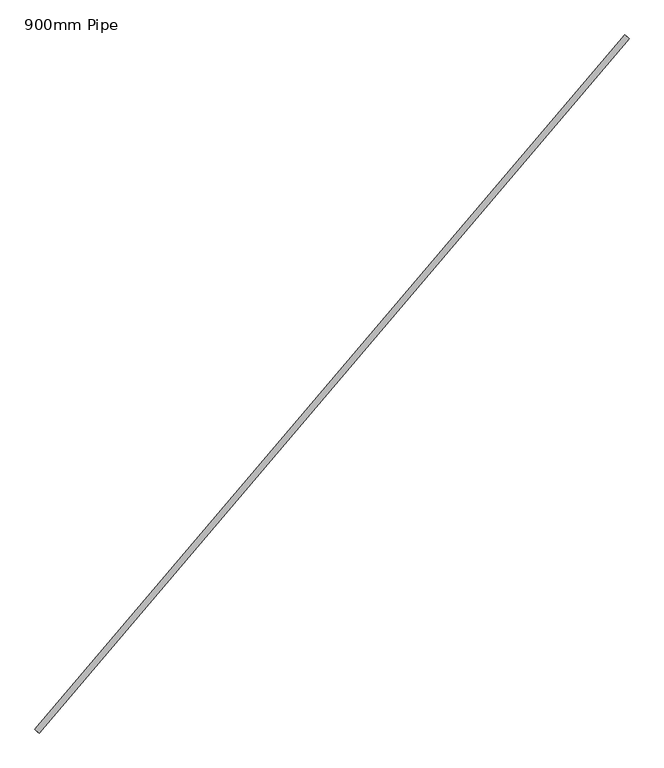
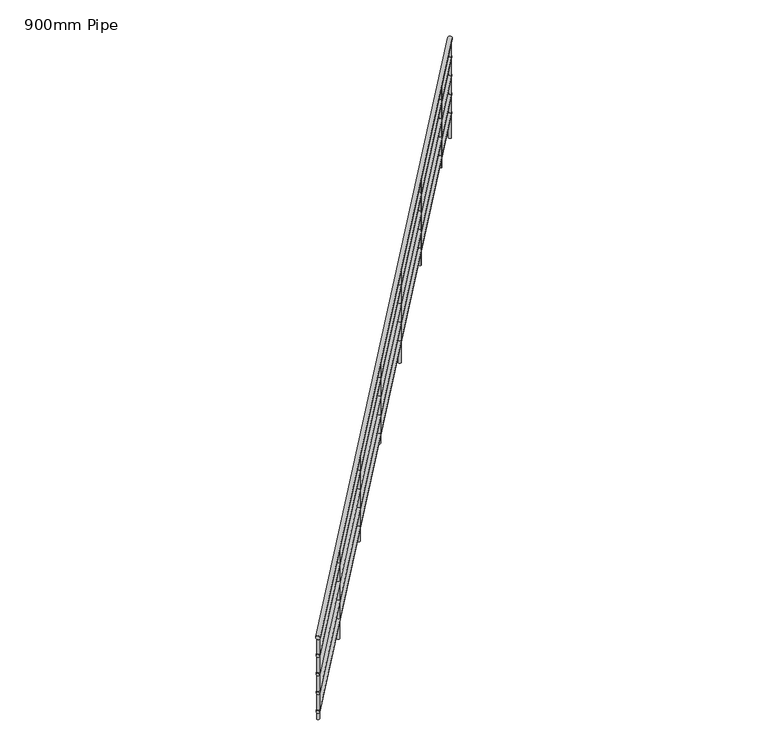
"""IFC4 building model written with IfcOpenShell, lengths in millimetres: railing geometry, 900mm Pipe."""

from ifc_helpers import new_model, si_unit, frame, origin, place, context, project, spatial, circle_curve, ellipse_curve, source, transform, mapped, element, save
from ifc_brep_helpers import plane_surface, cylinder_surface, advanced_brep


def railing_900mm_pipe_3d5e149a(model_context):
    return source(origin(), model_context, "Body", "AdvancedBrep", [
        advanced_brep(
        [(847665.4086087, 73293.0394401, 1058.386247), (847634.9210986, 73318.9336813, 1058.386247), (851855.4324803, 78226.3137669, 3030.6215411), (851824.9449702, 78252.2080081, 3030.6215411)],
        [
            (0, 1, ellipse_curve(frame((847650.1648537, 73305.9865607, 1058.386247), z_axis=(-0.6473560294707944, -0.762187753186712, 0.0), x_axis=(0.0, 0.0, -1.0)), 20.9078706, 20.0)),
            (1, 0, ellipse_curve(frame((847650.1648537, 73305.9865607, 1058.386247), z_axis=(-0.6473560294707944, -0.762187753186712, 0.0), x_axis=(0.0, 0.0, -1.0)), 20.9078706, 20.0)),
            (2, 3, ellipse_curve(frame((851840.1887253, 78239.2608875, 3030.6215411), z_axis=(0.6473560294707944, 0.762187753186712, 0.0), x_axis=(0.0, 0.0, -1.0)), 20.9078706, 20.0)),
            (3, 2, ellipse_curve(frame((851840.1887253, 78239.2608875, 3030.6215411), z_axis=(0.6473560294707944, 0.762187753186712, 0.0), x_axis=(0.0, 0.0, -1.0)), 20.9078706, 20.0)),
            (1, 3),
            (2, 0),
        ],
        [
            plane_surface(frame((847650.1648537, 73305.9865607, 1079.2941176), z_axis=(-0.6473560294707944, -0.762187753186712, 0.0), x_axis=(0.762187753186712, -0.6473560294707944, 0.0))),
            plane_surface(frame((851840.1887253, 78239.2608875, 3051.5294118), z_axis=(0.6473560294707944, 0.762187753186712, 0.0), x_axis=(0.762187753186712, -0.6473560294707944, 0.0))),
            cylinder_surface(frame((847653.9386531, 73310.4297783, 1060.1625663), z_axis=(-0.6192462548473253, -0.7290917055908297, -0.2914778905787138), x_axis=(-0.762187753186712, 0.6473560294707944, 0.0)), 20.0),
        ],
        [
            (0, [[1, 2]]),
            (1, [[3, 4]]),
            (2, [[-2, 5, -3, 6]]),
            (2, [[-1, -6, -4, -5]]),
        ],
    ),
        advanced_brep(
        [(847661.59767, 73296.2762203, 863.6132147), (847638.7320374, 73315.6969011, 863.6132147), (851851.6215416, 78229.550547, 2835.8485088), (851828.755909, 78248.9712279, 2835.8485088)],
        [
            (0, 1, ellipse_curve(frame((847650.1648537, 73305.9865607, 863.6132147), z_axis=(-0.6473560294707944, -0.762187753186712, 0.0), x_axis=(0.0, 0.0, -1.0)), 15.680903, 15.0)),
            (1, 0, ellipse_curve(frame((847650.1648537, 73305.9865607, 863.6132147), z_axis=(-0.6473560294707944, -0.762187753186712, 0.0), x_axis=(0.0, 0.0, -1.0)), 15.680903, 15.0)),
            (2, 3, ellipse_curve(frame((851840.1887253, 78239.2608875, 2835.8485088), z_axis=(0.6473560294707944, 0.762187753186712, 0.0), x_axis=(0.0, 0.0, -1.0)), 15.680903, 15.0)),
            (3, 2, ellipse_curve(frame((851840.1887253, 78239.2608875, 2835.8485088), z_axis=(0.6473560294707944, 0.762187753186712, 0.0), x_axis=(0.0, 0.0, -1.0)), 15.680903, 15.0)),
            (0, 2),
            (3, 1),
        ],
        [
            plane_surface(frame((847650.1648537, 73305.9865607, 879.2941176), z_axis=(-0.6473560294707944, -0.762187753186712, 0.0), x_axis=(0.762187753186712, -0.6473560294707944, 0.0))),
            plane_surface(frame((851840.1887253, 78239.2608875, 2851.5294118), z_axis=(0.6473560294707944, 0.762187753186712, 0.0), x_axis=(0.762187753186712, -0.6473560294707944, 0.0))),
            cylinder_surface(frame((847652.9952032, 73309.3189739, 864.9454542), z_axis=(-0.6192462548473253, -0.7290917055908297, -0.2914778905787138), x_axis=(-0.762187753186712, 0.6473560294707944, 0.0)), 15.0),
        ],
        [
            (0, [[1, 2]]),
            (1, [[3, 4]]),
            (2, [[-1, 5, -4, 6]]),
            (2, [[-2, -6, -3, -5]]),
        ],
    ),
        advanced_brep(
        [(847661.59767, 73296.2762203, 663.6132147), (847638.7320374, 73315.6969011, 663.6132147), (851851.6215416, 78229.550547, 2635.8485088), (851828.755909, 78248.9712279, 2635.8485088)],
        [
            (0, 1, ellipse_curve(frame((847650.1648537, 73305.9865607, 663.6132147), z_axis=(-0.6473560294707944, -0.762187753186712, 0.0), x_axis=(0.0, 0.0, -1.0)), 15.680903, 15.0)),
            (1, 0, ellipse_curve(frame((847650.1648537, 73305.9865607, 663.6132147), z_axis=(-0.6473560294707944, -0.762187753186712, 0.0), x_axis=(0.0, 0.0, -1.0)), 15.680903, 15.0)),
            (2, 3, ellipse_curve(frame((851840.1887253, 78239.2608875, 2635.8485088), z_axis=(0.6473560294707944, 0.762187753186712, 0.0), x_axis=(0.0, 0.0, -1.0)), 15.680903, 15.0)),
            (3, 2, ellipse_curve(frame((851840.1887253, 78239.2608875, 2635.8485088), z_axis=(0.6473560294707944, 0.762187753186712, 0.0), x_axis=(0.0, 0.0, -1.0)), 15.680903, 15.0)),
            (0, 2),
            (3, 1),
        ],
        [
            plane_surface(frame((847650.1648537, 73305.9865607, 679.2941176), z_axis=(-0.6473560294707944, -0.762187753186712, 0.0), x_axis=(0.762187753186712, -0.6473560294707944, 0.0))),
            plane_surface(frame((851840.1887253, 78239.2608875, 2651.5294118), z_axis=(0.6473560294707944, 0.762187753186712, 0.0), x_axis=(0.762187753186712, -0.6473560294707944, 0.0))),
            cylinder_surface(frame((847652.9952032, 73309.3189739, 664.9454542), z_axis=(-0.6192462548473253, -0.7290917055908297, -0.2914778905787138), x_axis=(-0.762187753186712, 0.6473560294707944, 0.0)), 15.0),
        ],
        [
            (0, [[1, 2]]),
            (1, [[3, 4]]),
            (2, [[-1, 5, -4, 6]]),
            (2, [[-2, -6, -3, -5]]),
        ],
    ),
        advanced_brep(
        [(847661.59767, 73296.2762203, 463.6132147), (847638.7320374, 73315.6969011, 463.6132147), (851851.6215416, 78229.550547, 2435.8485088), (851828.755909, 78248.9712279, 2435.8485088)],
        [
            (0, 1, ellipse_curve(frame((847650.1648537, 73305.9865607, 463.6132147), z_axis=(-0.6473560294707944, -0.762187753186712, 0.0), x_axis=(0.0, 0.0, -1.0)), 15.680903, 15.0)),
            (1, 0, ellipse_curve(frame((847650.1648537, 73305.9865607, 463.6132147), z_axis=(-0.6473560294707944, -0.762187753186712, 0.0), x_axis=(0.0, 0.0, -1.0)), 15.680903, 15.0)),
            (2, 3, ellipse_curve(frame((851840.1887253, 78239.2608875, 2435.8485088), z_axis=(0.6473560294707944, 0.762187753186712, 0.0), x_axis=(0.0, 0.0, -1.0)), 15.680903, 15.0)),
            (3, 2, ellipse_curve(frame((851840.1887253, 78239.2608875, 2435.8485088), z_axis=(0.6473560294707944, 0.762187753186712, 0.0), x_axis=(0.0, 0.0, -1.0)), 15.680903, 15.0)),
            (0, 2),
            (3, 1),
        ],
        [
            plane_surface(frame((847650.1648537, 73305.9865607, 479.2941176), z_axis=(-0.6473560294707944, -0.762187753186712, 0.0), x_axis=(0.762187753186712, -0.6473560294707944, 0.0))),
            plane_surface(frame((851840.1887253, 78239.2608875, 2451.5294118), z_axis=(0.6473560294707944, 0.762187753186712, 0.0), x_axis=(0.762187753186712, -0.6473560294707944, 0.0))),
            cylinder_surface(frame((847652.9952032, 73309.3189739, 464.9454542), z_axis=(-0.6192462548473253, -0.7290917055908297, -0.2914778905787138), x_axis=(-0.762187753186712, 0.6473560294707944, 0.0)), 15.0),
        ],
        [
            (0, [[1, 2]]),
            (1, [[3, 4]]),
            (2, [[-1, 5, -4, 6]]),
            (2, [[-2, -6, -3, -5]]),
        ],
    ),
        advanced_brep(
        [(847661.59767, 73296.2762203, 263.6132147), (847638.7320374, 73315.6969011, 263.6132147), (851851.6215416, 78229.550547, 2235.8485088), (851828.755909, 78248.9712279, 2235.8485088)],
        [
            (0, 1, ellipse_curve(frame((847650.1648537, 73305.9865607, 263.6132147), z_axis=(-0.6473560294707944, -0.762187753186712, 0.0), x_axis=(0.0, 0.0, -1.0)), 15.680903, 15.0)),
            (1, 0, ellipse_curve(frame((847650.1648537, 73305.9865607, 263.6132147), z_axis=(-0.6473560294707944, -0.762187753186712, 0.0), x_axis=(0.0, 0.0, -1.0)), 15.680903, 15.0)),
            (2, 3, ellipse_curve(frame((851840.1887253, 78239.2608875, 2235.8485088), z_axis=(0.6473560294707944, 0.762187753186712, 0.0), x_axis=(0.0, 0.0, -1.0)), 15.680903, 15.0)),
            (3, 2, ellipse_curve(frame((851840.1887253, 78239.2608875, 2235.8485088), z_axis=(0.6473560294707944, 0.762187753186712, 0.0), x_axis=(0.0, 0.0, -1.0)), 15.680903, 15.0)),
            (0, 2),
            (3, 1),
        ],
        [
            plane_surface(frame((847650.1648537, 73305.9865607, 279.2941176), z_axis=(-0.6473560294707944, -0.762187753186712, 0.0), x_axis=(0.762187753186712, -0.6473560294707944, 0.0))),
            plane_surface(frame((851840.1887253, 78239.2608875, 2251.5294118), z_axis=(0.6473560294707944, 0.762187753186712, 0.0), x_axis=(0.762187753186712, -0.6473560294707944, 0.0))),
            cylinder_surface(frame((847652.9952032, 73309.3189739, 264.9454542), z_axis=(-0.6192462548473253, -0.7290917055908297, -0.2914778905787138), x_axis=(-0.762187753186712, 0.6473560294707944, 0.0)), 15.0),
        ],
        [
            (0, [[1, 2]]),
            (1, [[3, 4]]),
            (2, [[-1, 5, -4, 6]]),
            (2, [[-2, -6, -3, -5]]),
        ],
    ),
        advanced_brep(
        [(851524.7736836, 77887.2050302, 2865.7329854), (851543.8283774, 77871.0211295, 2865.7329854), (851543.8283774, 77871.0211295, 1972.2352941), (851524.7736836, 77887.2050302, 1972.2352941)],
        [
            (0, 1, ellipse_curve(frame((851534.3010305, 77879.1130798, 2865.7329854), z_axis=(0.18868996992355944, 0.22216087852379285, -0.9565775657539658), x_axis=(0.619246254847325, 0.7290917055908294, 0.29147789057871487)), 13.0674191, 12.5)),
            (1, 2),
            (2, 3, circle_curve(frame((851534.3010305, 77879.1130798, 1972.2352941), z_axis=(0.0, 0.0, 1.0), x_axis=(0.762187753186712, -0.6473560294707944, 0.0)), 12.5)),
            (3, 0),
            (3, 2, circle_curve(frame((851534.3010305, 77879.1130798, 1972.2352941), z_axis=(0.0, 0.0, 1.0), x_axis=(0.762187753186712, -0.6473560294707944, 0.0)), 12.5)),
            (1, 0, ellipse_curve(frame((851534.3010305, 77879.1130798, 2865.7329854), z_axis=(0.18868996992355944, 0.22216087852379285, -0.9565775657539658), x_axis=(0.619246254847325, 0.7290917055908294, 0.29147789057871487)), 13.0674191, 12.5)),
        ],
        [
            cylinder_surface(frame((851534.3010305, 77879.1130798, 1872.2352941), z_axis=(0.0, 0.0, 1.0), x_axis=(0.762187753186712, -0.6473560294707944, 0.0)), 12.5),
            plane_surface(frame((851569.5396251, 77881.9838729, 2873.3507129), z_axis=(-0.18868996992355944, -0.22216087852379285, 0.9565775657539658), x_axis=(-0.762187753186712, 0.6473560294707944, 0.0))),
            plane_surface(frame((851537.1718236, 77843.8744853, 1972.2352941), z_axis=(0.0, 0.0, -1.0), x_axis=(-0.762187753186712, 0.6473560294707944, 0.0))),
        ],
        [
            (0, [[1, 2, 3, 4]]),
            (0, [[5, -2, 6, -4]]),
            (1, [[-6, -1]]),
            (2, [[-5, -3]]),
        ],
    ),
        advanced_brep(
        [(850877.4176541, 77125.017277, 2561.0238839), (850896.472348, 77108.8333763, 2561.0238839), (850896.472348, 77108.8333763, 1613.6470588), (850877.4176541, 77125.017277, 1613.6470588)],
        [
            (0, 1, ellipse_curve(frame((850886.945001, 77116.9253266, 2561.0238839), z_axis=(0.18868996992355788, 0.22216087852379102, -0.9565775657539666), x_axis=(0.6192462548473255, 0.7290917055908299, 0.2914778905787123)), 13.0674191, 12.5)),
            (1, 2),
            (2, 3, circle_curve(frame((850886.945001, 77116.9253266, 1613.6470588), z_axis=(0.0, 0.0, 1.0), x_axis=(0.762187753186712, -0.6473560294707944, 0.0)), 12.5)),
            (3, 0),
            (3, 2, circle_curve(frame((850886.945001, 77116.9253266, 1613.6470588), z_axis=(0.0, 0.0, 1.0), x_axis=(0.762187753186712, -0.6473560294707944, 0.0)), 12.5)),
            (1, 0, ellipse_curve(frame((850886.945001, 77116.9253266, 2561.0238839), z_axis=(0.18868996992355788, 0.22216087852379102, -0.9565775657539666), x_axis=(0.6192462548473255, 0.7290917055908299, 0.2914778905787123)), 13.0674191, 12.5)),
        ],
        [
            cylinder_surface(frame((850886.945001, 77116.9253266, 1513.6470588), z_axis=(0.0, 0.0, 1.0), x_axis=(0.762187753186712, -0.6473560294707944, 0.0)), 12.5),
            plane_surface(frame((850922.1835956, 77119.7961197, 2568.6416114), z_axis=(-0.18868996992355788, -0.22216087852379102, 0.9565775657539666), x_axis=(-0.762187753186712, 0.6473560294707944, 0.0))),
            plane_surface(frame((850889.8157941, 77081.6867321, 1613.6470588), z_axis=(0.0, 0.0, -1.0), x_axis=(-0.762187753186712, 0.6473560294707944, 0.0))),
        ],
        [
            (0, [[1, 2, 3, 4]]),
            (0, [[5, -2, 6, -4]]),
            (1, [[-6, -1]]),
            (2, [[-5, -3]]),
        ],
    ),
        advanced_brep(
        [(850230.0616247, 76362.8295238, 2256.3147824), (850249.1163185, 76346.6456231, 2256.3147824), (850249.1163185, 76346.6456231, 1255.0588235), (850230.0616247, 76362.8295238, 1255.0588235)],
        [
            (0, 1, ellipse_curve(frame((850239.5889716, 76354.7375735, 2256.3147824), z_axis=(0.18868996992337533, 0.22216087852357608, -0.9565775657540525), x_axis=(0.6192462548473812, 0.7290917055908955, 0.2914778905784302)), 13.0674191, 12.5)),
            (1, 2),
            (2, 3, circle_curve(frame((850239.5889716, 76354.7375735, 1255.0588235), z_axis=(0.0, 0.0, 1.0), x_axis=(0.762187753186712, -0.6473560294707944, 0.0)), 12.5)),
            (3, 0),
            (3, 2, circle_curve(frame((850239.5889716, 76354.7375735, 1255.0588235), z_axis=(0.0, 0.0, 1.0), x_axis=(0.762187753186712, -0.6473560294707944, 0.0)), 12.5)),
            (1, 0, ellipse_curve(frame((850239.5889716, 76354.7375735, 2256.3147824), z_axis=(0.18868996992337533, 0.22216087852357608, -0.9565775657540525), x_axis=(0.6192462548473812, 0.7290917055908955, 0.2914778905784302)), 13.0674191, 12.5)),
        ],
        [
            cylinder_surface(frame((850239.5889716, 76354.7375735, 1155.0588235), z_axis=(0.0, 0.0, 1.0), x_axis=(0.762187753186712, -0.6473560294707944, 0.0)), 12.5),
            plane_surface(frame((850274.8275661, 76357.6083665, 2263.9325099), z_axis=(-0.18868996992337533, -0.22216087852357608, 0.9565775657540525), x_axis=(-0.762187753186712, 0.6473560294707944, 0.0))),
            plane_surface(frame((850242.4597647, 76319.4989789, 1255.0588235), z_axis=(0.0, 0.0, -1.0), x_axis=(-0.762187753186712, 0.6473560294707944, 0.0))),
        ],
        [
            (0, [[1, 2, 3, 4]]),
            (0, [[5, -2, 6, -4]]),
            (1, [[-6, -1]]),
            (2, [[-5, -3]]),
        ],
    ),
        advanced_brep(
        [(849582.7055952, 75600.6417706, 1951.6056809), (849601.760289, 75584.4578699, 1951.6056809), (849601.760289, 75584.4578699, 1075.7647059), (849582.7055952, 75600.6417706, 1075.7647059)],
        [
            (0, 1, ellipse_curve(frame((849592.2329421, 75592.5498203, 1951.6056809), z_axis=(0.18868996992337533, 0.22216087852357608, -0.9565775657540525), x_axis=(0.6192462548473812, 0.7290917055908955, 0.2914778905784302)), 13.0674191, 12.5)),
            (1, 2),
            (2, 3, circle_curve(frame((849592.2329421, 75592.5498203, 1075.7647059), z_axis=(0.0, 0.0, 1.0), x_axis=(0.762187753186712, -0.6473560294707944, 0.0)), 12.5)),
            (3, 0),
            (3, 2, circle_curve(frame((849592.2329421, 75592.5498203, 1075.7647059), z_axis=(0.0, 0.0, 1.0), x_axis=(0.762187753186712, -0.6473560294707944, 0.0)), 12.5)),
            (1, 0, ellipse_curve(frame((849592.2329421, 75592.5498203, 1951.6056809), z_axis=(0.18868996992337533, 0.22216087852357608, -0.9565775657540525), x_axis=(0.6192462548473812, 0.7290917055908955, 0.2914778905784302)), 13.0674191, 12.5)),
        ],
        [
            cylinder_surface(frame((849592.2329421, 75592.5498203, 975.7647059), z_axis=(0.0, 0.0, 1.0), x_axis=(0.762187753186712, -0.6473560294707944, 0.0)), 12.5),
            plane_surface(frame((849627.4715367, 75595.4206134, 1959.2234084), z_axis=(-0.18868996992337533, -0.22216087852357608, 0.9565775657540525), x_axis=(-0.762187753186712, 0.6473560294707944, 0.0))),
            plane_surface(frame((849595.1037352, 75557.3112257, 1075.7647059), z_axis=(0.0, 0.0, -1.0), x_axis=(-0.762187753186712, 0.6473560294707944, 0.0))),
        ],
        [
            (0, [[1, 2, 3, 4]]),
            (0, [[5, -2, 6, -4]]),
            (1, [[-6, -1]]),
            (2, [[-5, -3]]),
        ],
    ),
        advanced_brep(
        [(848935.3495657, 74838.4540174, 1646.8965794), (848954.4042595, 74822.2701167, 1646.8965794), (848954.4042595, 74822.2701167, 717.1764706), (848935.3495657, 74838.4540174, 717.1764706)],
        [
            (0, 1, ellipse_curve(frame((848944.8769126, 74830.3620671, 1646.8965794), z_axis=(0.18868996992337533, 0.22216087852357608, -0.9565775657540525), x_axis=(0.6192462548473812, 0.7290917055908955, 0.2914778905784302)), 13.0674191, 12.5)),
            (1, 2),
            (2, 3, circle_curve(frame((848944.8769126, 74830.3620671, 717.1764706), z_axis=(0.0, 0.0, 1.0), x_axis=(0.762187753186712, -0.6473560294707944, 0.0)), 12.5)),
            (3, 0),
            (3, 2, circle_curve(frame((848944.8769126, 74830.3620671, 717.1764706), z_axis=(0.0, 0.0, 1.0), x_axis=(0.762187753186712, -0.6473560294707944, 0.0)), 12.5)),
            (1, 0, ellipse_curve(frame((848944.8769126, 74830.3620671, 1646.8965794), z_axis=(0.18868996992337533, 0.22216087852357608, -0.9565775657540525), x_axis=(0.6192462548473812, 0.7290917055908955, 0.2914778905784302)), 13.0674191, 12.5)),
        ],
        [
            cylinder_surface(frame((848944.8769126, 74830.3620671, 617.1764706), z_axis=(0.0, 0.0, 1.0), x_axis=(0.762187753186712, -0.6473560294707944, 0.0)), 12.5),
            plane_surface(frame((848980.1155072, 74833.2328602, 1654.5143069), z_axis=(-0.18868996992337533, -0.22216087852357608, 0.9565775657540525), x_axis=(-0.762187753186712, 0.6473560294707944, 0.0))),
            plane_surface(frame((848947.7477057, 74795.1234725, 717.1764706), z_axis=(0.0, 0.0, -1.0), x_axis=(-0.762187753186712, 0.6473560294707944, 0.0))),
        ],
        [
            (0, [[1, 2, 3, 4]]),
            (0, [[5, -2, 6, -4]]),
            (1, [[-6, -1]]),
            (2, [[-5, -3]]),
        ],
    ),
        advanced_brep(
        [(848287.9935362, 74076.2662643, 1342.1874779), (848307.0482301, 74060.0823635, 1342.1874779), (848307.0482301, 74060.0823635, 358.5882353), (848287.9935362, 74076.2662643, 358.5882353)],
        [
            (0, 1, ellipse_curve(frame((848297.5208832, 74068.1743139, 1342.1874779), z_axis=(0.18868996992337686, 0.2221608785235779, -0.9565775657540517), x_axis=(0.6192462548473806, 0.7290917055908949, 0.29147789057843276)), 13.0674191, 12.5)),
            (1, 2),
            (2, 3, circle_curve(frame((848297.5208832, 74068.1743139, 358.5882353), z_axis=(0.0, 0.0, 1.0), x_axis=(0.762187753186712, -0.6473560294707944, 0.0)), 12.5)),
            (3, 0),
            (3, 2, circle_curve(frame((848297.5208832, 74068.1743139, 358.5882353), z_axis=(0.0, 0.0, 1.0), x_axis=(0.762187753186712, -0.6473560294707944, 0.0)), 12.5)),
            (1, 0, ellipse_curve(frame((848297.5208832, 74068.1743139, 1342.1874779), z_axis=(0.18868996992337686, 0.2221608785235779, -0.9565775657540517), x_axis=(0.6192462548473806, 0.7290917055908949, 0.29147789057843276)), 13.0674191, 12.5)),
        ],
        [
            cylinder_surface(frame((848297.5208832, 74068.1743139, 258.5882353), z_axis=(0.0, 0.0, 1.0), x_axis=(0.762187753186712, -0.6473560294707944, 0.0)), 12.5),
            plane_surface(frame((848332.7594777, 74071.045107, 1349.8052054), z_axis=(-0.18868996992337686, -0.2221608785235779, 0.9565775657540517), x_axis=(-0.762187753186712, 0.6473560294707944, 0.0))),
            plane_surface(frame((848300.3916762, 74032.9357193, 358.5882353), z_axis=(0.0, 0.0, -1.0), x_axis=(-0.762187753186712, 0.6473560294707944, 0.0))),
        ],
        [
            (0, [[1, 2, 3, 4]]),
            (0, [[5, -2, 6, -4]]),
            (1, [[-6, -1]]),
            (2, [[-5, -3]]),
        ],
    ),
        advanced_brep(
        [(851822.569428, 78237.8254909, 3005.9048067), (851841.6241218, 78221.6415902, 3005.9048067), (851841.6241218, 78221.6415902, 1972.2352941), (851822.569428, 78237.8254909, 1972.2352941)],
        [
            (0, 1, ellipse_curve(frame((851832.0967749, 78229.7335406, 3005.9048067), z_axis=(0.18868996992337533, 0.22216087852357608, -0.9565775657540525), x_axis=(0.6192462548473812, 0.7290917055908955, 0.2914778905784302)), 13.0674191, 12.5)),
            (1, 2),
            (2, 3, circle_curve(frame((851832.0967749, 78229.7335406, 1972.2352941), z_axis=(0.0, 0.0, 1.0), x_axis=(0.762187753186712, -0.6473560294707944, 0.0)), 12.5)),
            (3, 0),
            (3, 2, circle_curve(frame((851832.0967749, 78229.7335406, 1972.2352941), z_axis=(0.0, 0.0, 1.0), x_axis=(0.762187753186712, -0.6473560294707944, 0.0)), 12.5)),
            (1, 0, ellipse_curve(frame((851832.0967749, 78229.7335406, 3005.9048067), z_axis=(0.18868996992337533, 0.22216087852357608, -0.9565775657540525), x_axis=(0.6192462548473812, 0.7290917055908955, 0.2914778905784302)), 13.0674191, 12.5)),
        ],
        [
            cylinder_surface(frame((851832.0967749, 78229.7335406, 1872.2352941), z_axis=(0.0, 0.0, 1.0), x_axis=(0.762187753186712, -0.6473560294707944, 0.0)), 12.5),
            plane_surface(frame((851867.3353695, 78232.6043337, 3013.5225343), z_axis=(-0.18868996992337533, -0.22216087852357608, 0.9565775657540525), x_axis=(-0.762187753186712, 0.6473560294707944, 0.0))),
            plane_surface(frame((851834.967568, 78194.494946, 1972.2352941), z_axis=(0.0, 0.0, -1.0), x_axis=(-0.762187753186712, 0.6473560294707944, 0.0))),
        ],
        [
            (0, [[1, 2, 3, 4]]),
            (0, [[5, -2, 6, -4]]),
            (1, [[-6, -1]]),
            (2, [[-5, -3]]),
        ],
    ),
        advanced_brep(
        [(847648.7294571, 73323.605858, 1041.2872401), (847667.784151, 73307.4219573, 1041.2872401), (847667.784151, 73307.4219573, 179.2941176), (847648.7294571, 73323.605858, 179.2941176)],
        [
            (0, 1, ellipse_curve(frame((847658.2568041, 73315.5139076, 1041.2872401), z_axis=(0.18868996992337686, 0.2221608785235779, -0.9565775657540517), x_axis=(0.6192462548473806, 0.7290917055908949, 0.29147789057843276)), 13.0674191, 12.5)),
            (1, 2),
            (2, 3, circle_curve(frame((847658.2568041, 73315.5139076, 179.2941176), z_axis=(0.0, 0.0, 1.0), x_axis=(0.762187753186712, -0.6473560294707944, 0.0)), 12.5)),
            (3, 0),
            (3, 2, circle_curve(frame((847658.2568041, 73315.5139076, 179.2941176), z_axis=(0.0, 0.0, 1.0), x_axis=(0.762187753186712, -0.6473560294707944, 0.0)), 12.5)),
            (1, 0, ellipse_curve(frame((847658.2568041, 73315.5139076, 1041.2872401), z_axis=(0.18868996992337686, 0.2221608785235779, -0.9565775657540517), x_axis=(0.6192462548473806, 0.7290917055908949, 0.29147789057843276)), 13.0674191, 12.5)),
        ],
        [
            cylinder_surface(frame((847658.2568041, 73315.5139076, 79.2941176), z_axis=(0.0, 0.0, 1.0), x_axis=(0.762187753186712, -0.6473560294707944, 0.0)), 12.5),
            plane_surface(frame((847693.4953986, 73318.3847007, 1048.9049677), z_axis=(-0.18868996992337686, -0.2221608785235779, 0.9565775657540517), x_axis=(-0.762187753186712, 0.6473560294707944, 0.0))),
            plane_surface(frame((847661.1275971, 73280.2753131, 179.2941176), z_axis=(0.0, 0.0, -1.0), x_axis=(-0.762187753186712, 0.6473560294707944, 0.0))),
        ],
        [
            (0, [[1, 2, 3, 4]]),
            (0, [[5, -2, 6, -4]]),
            (1, [[-6, -1]]),
            (2, [[-5, -3]]),
        ],
    ),
    ])


if __name__ == "__main__":
    model = new_model("IFC4")
    model_context = context("Model", 3, world=origin())
    ifc_project = project(units=[si_unit("LENGTHUNIT", "METRE", prefix="MILLI")], contexts=[model_context])
    site = spatial("IfcSite", under=ifc_project)
    building = spatial("IfcBuilding", under=site)
    placement = place(None, origin())
    railing_900mm_pipe_shape = railing_900mm_pipe_3d5e149a(model_context)
    element("IfcRailing", 1, ObjectType="900mm Pipe", at=placement, inside=building, context=model_context, shape_type="MappedRepresentation", body=[
        mapped(railing_900mm_pipe_shape, transform((0.0, 0.0, 0.0), x_axis=(1.0, 0.0, 0.0), y_axis=(0.0, 1.0, 0.0), z_axis=(0.0, 0.0, 1.0))),
    ])
    save(model, "model.ifc")
